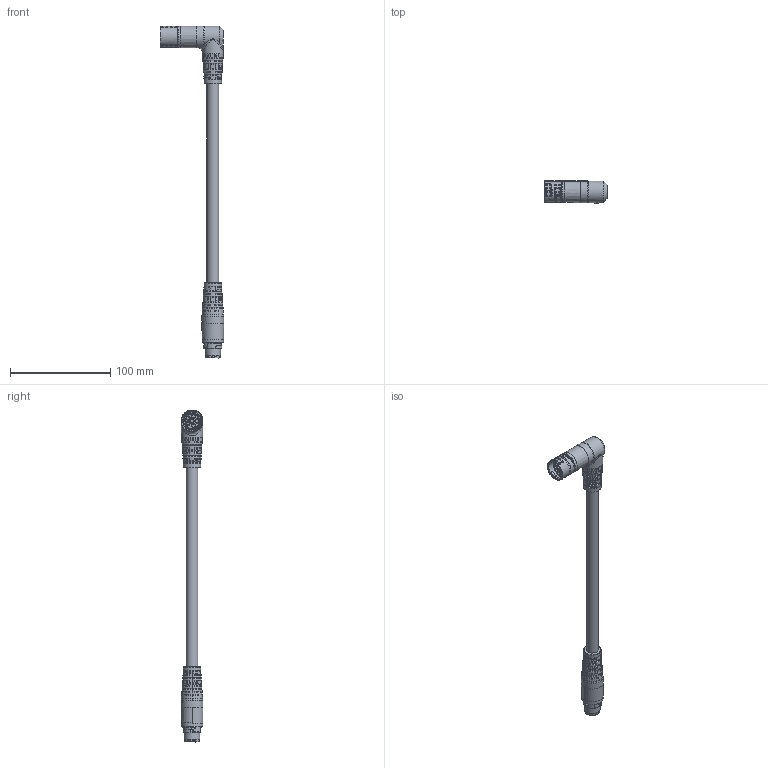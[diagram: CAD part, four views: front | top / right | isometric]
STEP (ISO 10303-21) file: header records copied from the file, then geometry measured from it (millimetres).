
FILE_DESCRIPTION (( 'STEP AP203' ), '1' );
FILE_NAME ('1162697_W-TEC_15M_STI_BU-90°L_STEP.STEP', '2023-09-06T05:24:01', ( '' ), ( '' ), 'SwSTEP 2.0', 'SolidWorks 2021', '' );
FILE_SCHEMA (( 'CONFIG_CONTROL_DESIGN' ));
Length unit declared in the file: millimetre
Products named in the file (1): 1162697_W-TEC_15M_STI_BU-90袂_STEP
Bounding box: 63.15 x 21.84 x 330.44 mm (x, y, z)
Surface area: 23719.9 mm2 (no closed solid volume)
Topology: 0 solids, 25 shells, 683 faces, 2968 edges, 2119 vertices
Faces by surface type: bspline 350, plane 153, cylinder 112, cone 61, torus 7
Full cylindrical faces by diameter (mm): 1.6 x3, 3.3 x5, 4.2 x3, 4.4 x3, 11.6 x1, 15.2 x1, 15.4 x1, 15.5 x1, 17.384 x1, 17.397 x1, 18.4 x1, 21.038 x1, 21.24 x1, 21.72 x2
Entity records: 52701 total; most frequent: CARTESIAN_POINT 34223, ORIENTED_EDGE 4187, EDGE_CURVE 2854, DIRECTION 2429, VERTEX_POINT 2092, B_SPLINE_CURVE_WITH_KNOTS 1437, AXIS2_PLACEMENT_3D 895, EDGE_LOOP 805
